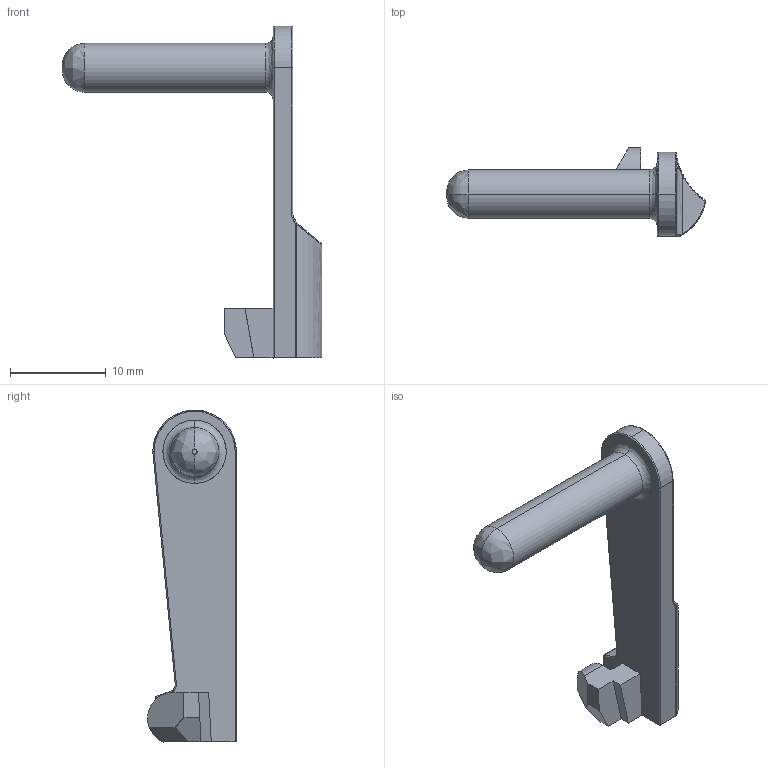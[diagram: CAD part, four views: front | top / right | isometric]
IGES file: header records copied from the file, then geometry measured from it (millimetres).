
Start section: SolidWorks IGES file using analytic representation for surfaces
Global section: file name: \\PSSILO\catalogs\CONTENTCENTRAL\slide release\Cache\8B157629-718C-4636-8C9E-0CD0C53DF2DA.IGS; native system: SolidWorks 2009; preprocessor: SolidWorks 2009; author: partstream; date: 090220.040221; units: inch
Bounding box: 27.11 x 9.27 x 34.69 mm (x, y, z)
Surface area: 1194.6 mm2 (no closed solid volume)
Topology: 0 solids, 0 shells, 114 faces, 873 edges, 873 vertices
Faces by surface type: bspline 73, revolution 41
